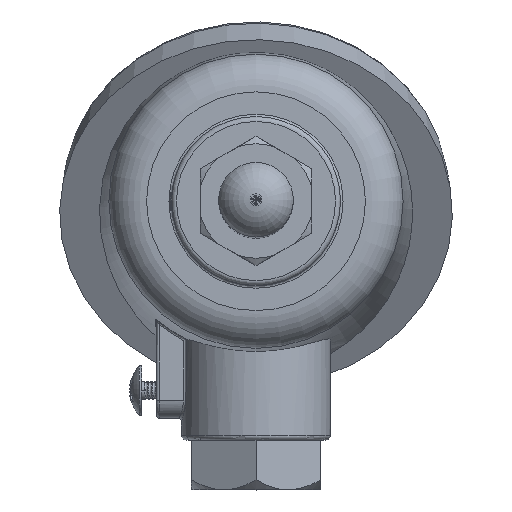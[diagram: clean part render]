
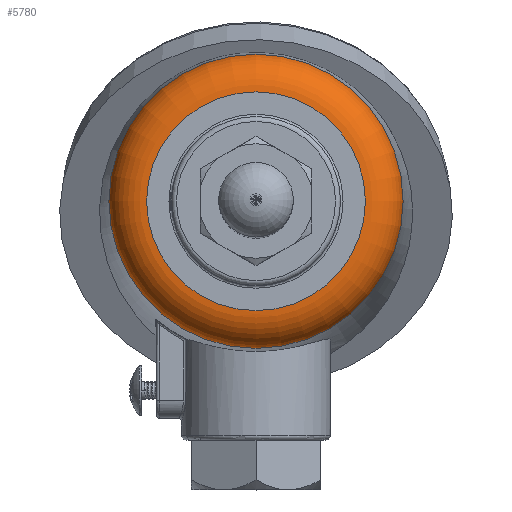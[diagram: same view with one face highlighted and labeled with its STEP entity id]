
A CAD part, top view. The second image highlights one B-rep face of the part: STEP entity #5780.
In plain terms, the highlighted toroidal (fillet/blend) face has major radius 22 mm and minor radius 7.622 mm.
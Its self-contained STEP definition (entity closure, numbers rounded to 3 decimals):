
#141 = AXIS2_PLACEMENT_3D ( 'NONE', #507, #4492, #5777 ) ;
#305 = DIRECTION ( 'NONE',  ( 0., -1., 0. ) ) ;
#465 = CIRCLE ( 'NONE', #4333, 29.597 ) ;
#507 = CARTESIAN_POINT ( 'NONE',  ( 0., 0., -25.6 ) ) ;
#951 = CIRCLE ( 'NONE', #141, 22. ) ;
#1280 = CARTESIAN_POINT ( 'NONE',  ( 0., 0., -32.6 ) ) ;
#1653 = FACE_OUTER_BOUND ( 'NONE', #5700, .T. ) ;
#1732 = DIRECTION ( 'NONE',  ( 0., 0., 1. ) ) ;
#2066 = CARTESIAN_POINT ( 'NONE',  ( 0., -22., -25.6 ) ) ;
#2547 = EDGE_CURVE ( 'NONE', #5392, #5392, #951, .T. ) ;
#2901 = ORIENTED_EDGE ( 'NONE', *, *, #3693, .T. ) ;
#3693 = EDGE_CURVE ( 'NONE', #7280, #7280, #465, .T. ) ;
#3754 = DIRECTION ( 'NONE',  ( 0., 0., 1. ) ) ;
#4021 = CARTESIAN_POINT ( 'NONE',  ( 0., -29.597, -32.6 ) ) ;
#4333 = AXIS2_PLACEMENT_3D ( 'NONE', #1280, #3754, #8270 ) ;
#4492 = DIRECTION ( 'NONE',  ( 0., 0., 1. ) ) ;
#4985 = ORIENTED_EDGE ( 'NONE', *, *, #2547, .F. ) ;
#4986 = AXIS2_PLACEMENT_3D ( 'NONE', #6790, #1732, #305 ) ;
#5392 = VERTEX_POINT ( 'NONE', #2066 ) ;
#5393 = TOROIDAL_SURFACE ( 'NONE', #4986, 22., 7.622 ) ;
#5700 = EDGE_LOOP ( 'NONE', ( #4985 ) ) ;
#5777 = DIRECTION ( 'NONE',  ( 0., -1., 0. ) ) ;
#5780 = ADVANCED_FACE ( 'NONE', ( #6752, #1653 ), #5393, .T. ) ;
#6752 = FACE_OUTER_BOUND ( 'NONE', #6754, .T. ) ;
#6754 = EDGE_LOOP ( 'NONE', ( #2901 ) ) ;
#6790 = CARTESIAN_POINT ( 'NONE',  ( 0., 0., -33.222 ) ) ;
#7280 = VERTEX_POINT ( 'NONE', #4021 ) ;
#8270 = DIRECTION ( 'NONE',  ( 0., -1., 0. ) ) ;
